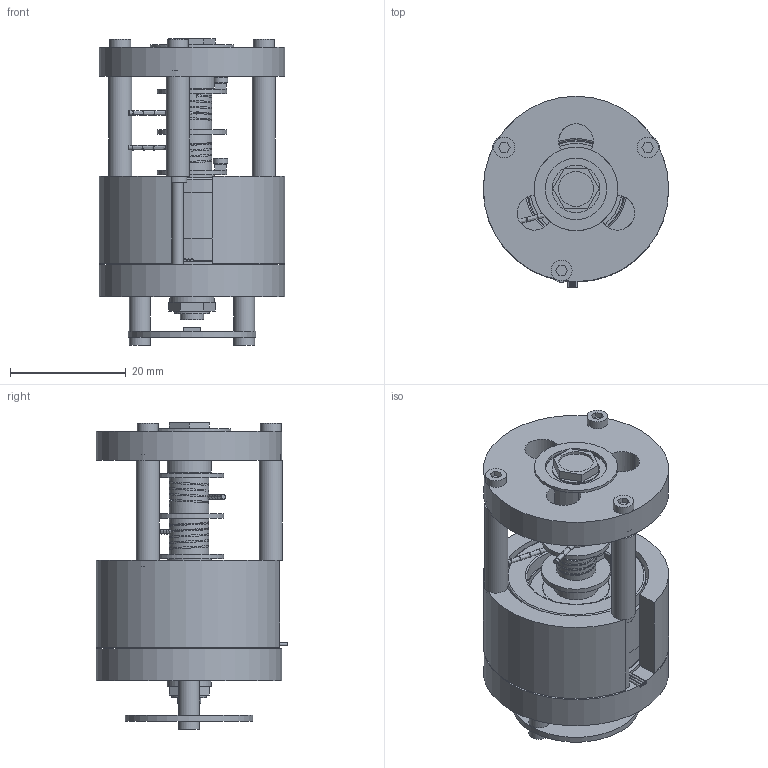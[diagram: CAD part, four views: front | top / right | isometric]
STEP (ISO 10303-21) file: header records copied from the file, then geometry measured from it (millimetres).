
FILE_DESCRIPTION(('Open CASCADE Model'),'2;1');
FILE_NAME('Open CASCADE Shape Model','2026-11-03T08:06:58',('Author'),( 'Open CASCADE'),'Open CASCADE STEP processor 7.9','Open CASCADE 7.9' ,'Unknown');
FILE_SCHEMA(('AUTOMOTIVE_DESIGN { 1 0 10303 214 1 1 1 1 }'));
Length unit declared in the file: millimetre
Products named in the file (39): ri20_motor_module; ri20_housing; ri20_rear_cover; ri20_rear_outer; ri20_rear_inner; ri20_rear_shields; ri20_official_0; ri20_official_1; ri20_official_2; ri20_official_3; ri20_official_4; ri20_hub; ri20_spindle; ri20_spacers; ri20_anchor_0; ri20_anchor_screw_0; ri20_anchor_1; ri20_anchor_screw_1; ri20_front_cover; ri20_front_outer; ri20_front_inner; ri20_front_shields; ri20_column_0; ri20_tiebolt_0; ri20_column_1; ri20_tiebolt_1; ri20_column_2; ri20_tiebolt_2; ri20_locknut_0; ri20_locknut_1; ri20_magnet; ri20_encoder; ri20_sensor; ri20_pcb_standoff_0; ri20_pcb_screw_0; ri20_pcb_standoff_1; ri20_pcb_screw_1; ri20_cord_0; ri20_cord_1
Assembly tree (38 placements, depth 2):
  ri20_motor_module
    ri20_housing
    ri20_rear_cover
    ri20_rear_outer
    ri20_rear_inner
    ri20_rear_shields
    ri20_official_0
    ri20_official_1
    ri20_official_2
    ri20_official_3
    ri20_official_4
    ri20_hub
    ri20_spindle
    ri20_spacers
    ri20_anchor_0
    ri20_anchor_screw_0
    ri20_anchor_1
    ri20_anchor_screw_1
    ri20_front_cover
    ri20_front_outer
    ri20_front_inner
    ri20_front_shields
    ri20_column_0
    ri20_tiebolt_0
    ri20_column_1
    ri20_tiebolt_1
    ri20_column_2
    ri20_tiebolt_2
    ri20_locknut_0
    ri20_locknut_1
    ri20_magnet
    ri20_encoder
    ri20_sensor
    ri20_pcb_standoff_0
    ri20_pcb_screw_0
    ri20_pcb_standoff_1
    ri20_pcb_screw_1
    ri20_cord_0
    ri20_cord_1
Bounding box: 32 x 33 x 52.9 mm (x, y, z)
Volume: 19686.5 mm3; surface area: 20450 mm2
Topology: 43 solids, 43 shells, 393 faces, 798 edges, 522 vertices
Faces by surface type: plane 213, cylinder 167, torus 8, bspline 5
Full cylindrical faces by diameter (mm): 1.4 x2, 1.5 x3, 1.6 x3, 2 x5, 2.1 x21, 2.2 x2, 2.52 x2, 3.2 x6, 3.22 x5, 3.6 x7, 4 x4, 4.06 x1, 6 x6, 6.02 x1, 6.04 x4, 6.8 x10, 7.6 x4, 8.2 x6, 10.6 x8, 11.5 x1, 12 x3, 13 x2, 14.4 x1, 22 x1, 23 x1, 25.08 x1, 32 x2
Entity records: 52115 total; most frequent: CARTESIAN_POINT 34152, DIRECTION 3366, ORIENTED_EDGE 1596, PCURVE 1596, DEFINITIONAL_REPRESENTATION 1596, LINE 1415, VECTOR 1415, AXIS2_PLACEMENT_3D 805
